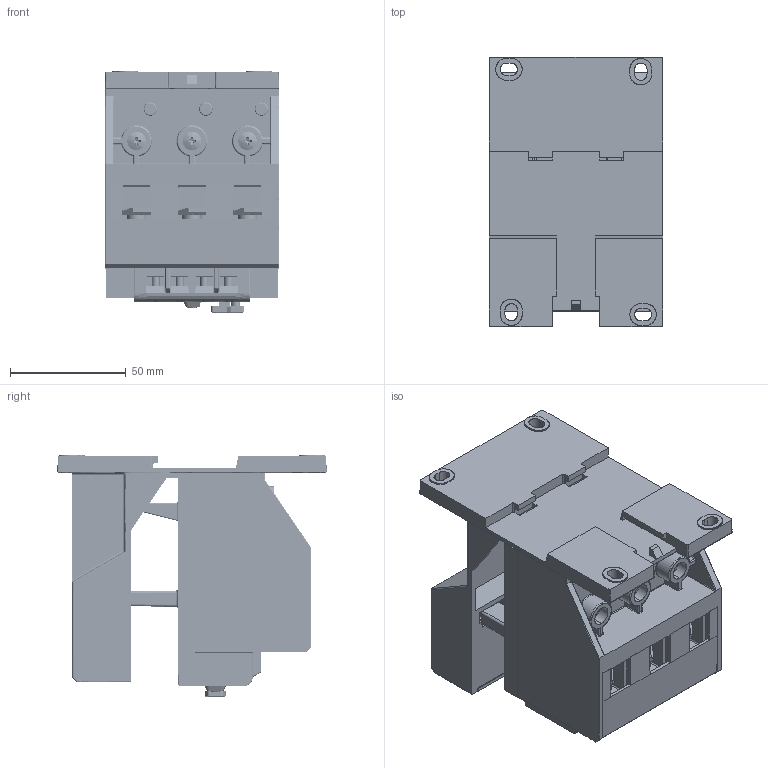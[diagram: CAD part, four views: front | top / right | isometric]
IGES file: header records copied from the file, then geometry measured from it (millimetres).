
Start section: SolidWorks IGES file using analytic representation for surfaces
Global section: file name: Q:\GROUPS\BR_SC_JGS_WA_TECNICO\ENG\Usuarios\Rodrigob\conversão\Reles de Sobrecarga\Produto\RW117-2D\RW117-2D.IGS; native system: SolidWorks 2015; preprocessor: SolidWorks 2015; author: rodrigob; date: 160523.072940; units: millimetre
Bounding box: 75.13 x 116.38 x 104.7 mm (x, y, z)
Surface area: 174035.6 mm2 (no closed solid volume)
Topology: 0 solids, 0 shells, 3481 faces, 31746 edges, 31693 vertices
Faces by surface type: bspline 2247, revolution 1234
